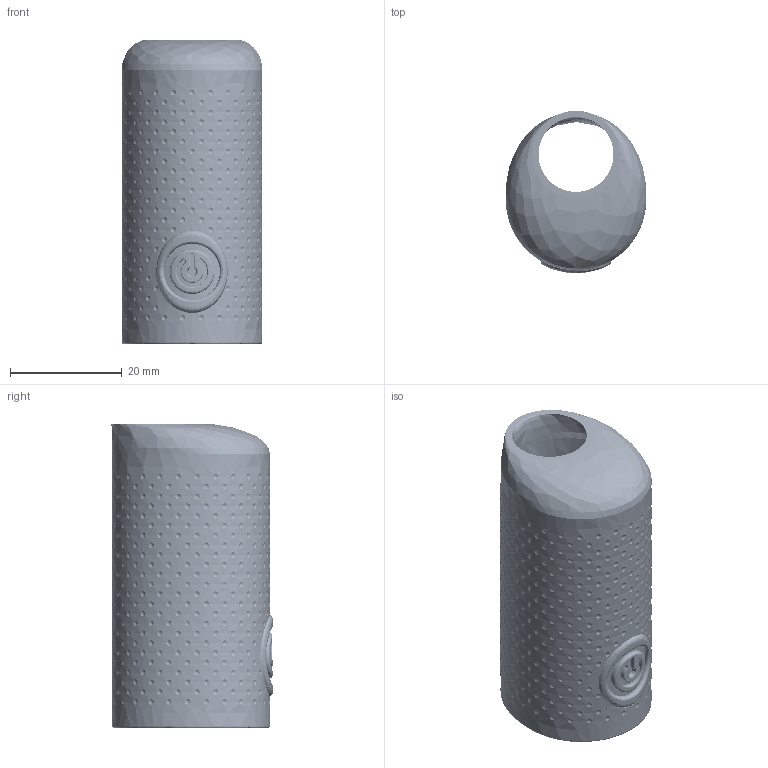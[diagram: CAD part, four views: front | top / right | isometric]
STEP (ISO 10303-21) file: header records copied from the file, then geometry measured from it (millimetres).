
FILE_DESCRIPTION(('Open CASCADE Model'),'2;1');
FILE_NAME('Open CASCADE Shape Model','2026-10-16T06:30:22',('Author'),( 'Open CASCADE'),'Open CASCADE STEP processor 7.8','Open CASCADE 7.8' ,'Unknown');
FILE_SCHEMA(('AUTOMOTIVE_DESIGN { 1 0 10303 214 1 1 1 1 }'));
Length unit declared in the file: millimetre
Products named in the file (3): HL188_rounded_soft_overmold; Soft_grip; Soft_button
Assembly tree (2 placements, depth 2):
  HL188_rounded_soft_overmold
    Soft_grip
    Soft_button
Bounding box: 25.19 x 28.95 x 54.5 mm (x, y, z)
Volume: 5739.6 mm3; surface area: 9463.9 mm2
Topology: 2 solids, 2 shells, 2937 faces, 5680 edges, 3297 vertices
Faces by surface type: bspline 2334, cone 571, plane 18, cylinder 10, extrusion 4
Full cylindrical faces by diameter (mm): 8 x1, 10 x1
Entity records: 373343 total; most frequent: CARTESIAN_POINT 287599, B_SPLINE_CURVE_WITH_KNOTS 13838, ORIENTED_EDGE 11360, PCURVE 11360, DEFINITIONAL_REPRESENTATION 11360, EDGE_CURVE 5680, SURFACE_CURVE 5105, DIRECTION 4436
